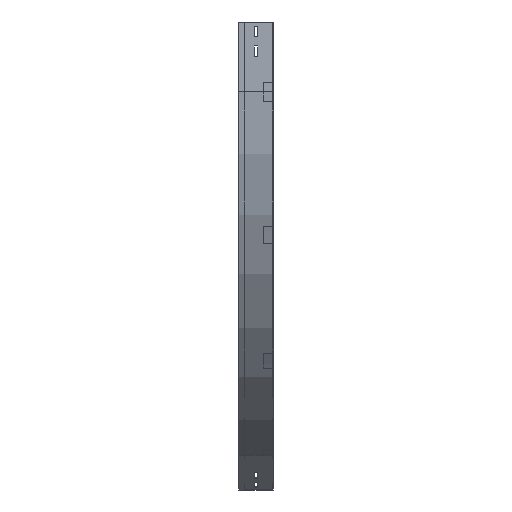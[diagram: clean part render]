
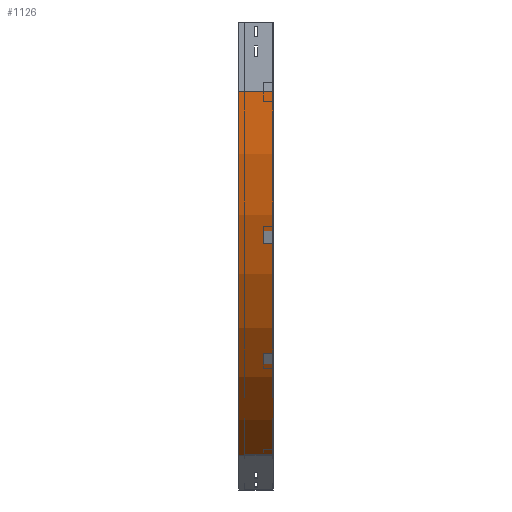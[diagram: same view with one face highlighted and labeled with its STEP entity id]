
A CAD part, left-side view. The second image highlights one B-rep face of the part: STEP entity #1126.
In plain terms, the highlighted cylindrical face has radius 900 mm (diameter 1800 mm), a partial arc.
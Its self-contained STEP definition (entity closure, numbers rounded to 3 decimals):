
#129 = DIRECTION ( 'NONE',  ( 0., -1., 0. ) ) ;
#215 = LINE ( 'NONE', #2593, #862 ) ;
#217 = VERTEX_POINT ( 'NONE', #1852 ) ;
#238 = CARTESIAN_POINT ( 'NONE',  ( 900., 0., -150. ) ) ;
#454 = EDGE_CURVE ( 'NONE', #3506, #748, #711, .T. ) ;
#621 = VERTEX_POINT ( 'NONE', #3717 ) ;
#711 = LINE ( 'NONE', #1896, #1205 ) ;
#748 = VERTEX_POINT ( 'NONE', #1384 ) ;
#756 = CARTESIAN_POINT ( 'NONE',  ( 0., 75., -150. ) ) ;
#862 = VECTOR ( 'NONE', #129, 1000. ) ;
#1108 = DIRECTION ( 'NONE',  ( 0., -1., 0. ) ) ;
#1126 = ADVANCED_FACE ( 'NONE', ( #3473 ), #2923, .T. ) ;
#1196 = ORIENTED_EDGE ( 'NONE', *, *, #454, .F. ) ;
#1205 = VECTOR ( 'NONE', #1231, 1000. ) ;
#1231 = DIRECTION ( 'NONE',  ( 0., -1., 0. ) ) ;
#1276 = CIRCLE ( 'NONE', #2468, 900. ) ;
#1300 = EDGE_CURVE ( 'NONE', #3506, #621, #1276, .T. ) ;
#1376 = DIRECTION ( 'NONE',  ( -1., 0., 0. ) ) ;
#1384 = CARTESIAN_POINT ( 'NONE',  ( 0., 0., -150. ) ) ;
#1639 = AXIS2_PLACEMENT_3D ( 'NONE', #238, #1108, #2268 ) ;
#1713 = DIRECTION ( 'NONE',  ( 0., -1., 0. ) ) ;
#1852 = CARTESIAN_POINT ( 'NONE',  ( 450., 0., -929.423 ) ) ;
#1896 = CARTESIAN_POINT ( 'NONE',  ( 0., 0., -150. ) ) ;
#1958 = AXIS2_PLACEMENT_3D ( 'NONE', #3729, #1713, #1376 ) ;
#2268 = DIRECTION ( 'NONE',  ( 0., 0., -1. ) ) ;
#2337 = EDGE_CURVE ( 'NONE', #748, #217, #3146, .T. ) ;
#2468 = AXIS2_PLACEMENT_3D ( 'NONE', #2977, #3576, #2650 ) ;
#2517 = EDGE_LOOP ( 'NONE', ( #3425, #1196, #2676, #3165 ) ) ;
#2593 = CARTESIAN_POINT ( 'NONE',  ( 450., 0., -929.423 ) ) ;
#2650 = DIRECTION ( 'NONE',  ( -1., 0., 0. ) ) ;
#2676 = ORIENTED_EDGE ( 'NONE', *, *, #1300, .T. ) ;
#2923 = CYLINDRICAL_SURFACE ( 'NONE', #1639, 900. ) ;
#2977 = CARTESIAN_POINT ( 'NONE',  ( 900., 75., -150. ) ) ;
#3146 = CIRCLE ( 'NONE', #1958, 900. ) ;
#3165 = ORIENTED_EDGE ( 'NONE', *, *, #3180, .T. ) ;
#3180 = EDGE_CURVE ( 'NONE', #621, #217, #215, .T. ) ;
#3425 = ORIENTED_EDGE ( 'NONE', *, *, #2337, .F. ) ;
#3473 = FACE_OUTER_BOUND ( 'NONE', #2517, .T. ) ;
#3506 = VERTEX_POINT ( 'NONE', #756 ) ;
#3576 = DIRECTION ( 'NONE',  ( 0., -1., 0. ) ) ;
#3717 = CARTESIAN_POINT ( 'NONE',  ( 450., 75., -929.423 ) ) ;
#3729 = CARTESIAN_POINT ( 'NONE',  ( 900., 0., -150. ) ) ;
